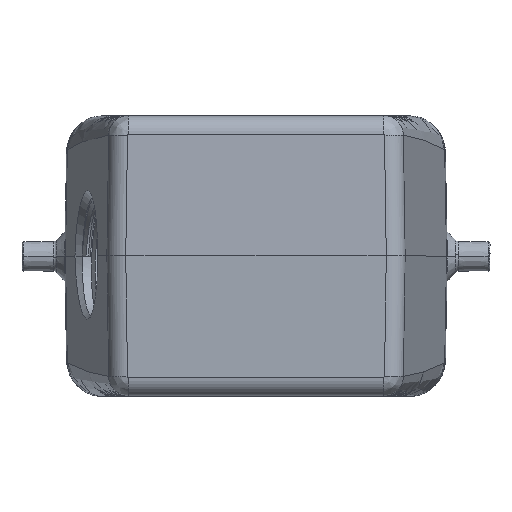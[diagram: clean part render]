
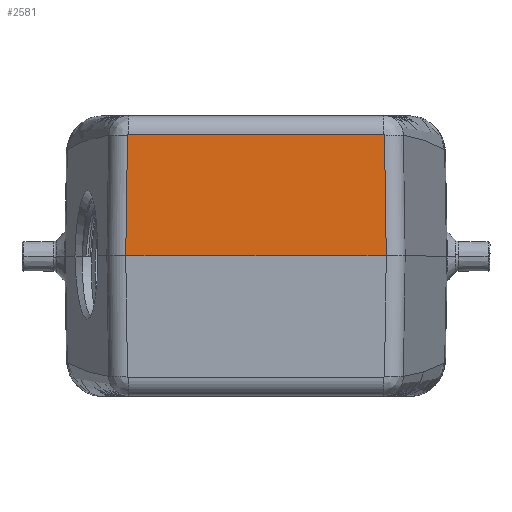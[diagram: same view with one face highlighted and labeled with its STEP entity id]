
A CAD part, top view. The second image highlights one B-rep face of the part: STEP entity #2581.
In plain terms, the highlighted planar face has unit normal (0, 0.018, 1).
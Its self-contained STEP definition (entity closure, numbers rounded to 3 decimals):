
#146 = VERTEX_POINT ( 'NONE', #21108 ) ;
#310 = VERTEX_POINT ( 'NONE', #6989 ) ;
#717 = DIRECTION ( 'NONE',  ( -1., 0., 0. ) ) ;
#863 = CARTESIAN_POINT ( 'NONE',  ( 20.153, 18.923, 59.67 ) ) ;
#1159 = CARTESIAN_POINT ( 'NONE',  ( -20.43, 0., 60. ) ) ;
#1225 = VERTEX_POINT ( 'NONE', #15622 ) ;
#2425 = ORIENTED_EDGE ( 'NONE', *, *, #14607, .F. ) ;
#2579 = B_SPLINE_CURVE_WITH_KNOTS ( 'NONE', 3,
 ( #863, #6522, #6354, #23127 ),
 .UNSPECIFIED., .F., .F.,
 ( 4, 4 ),
 ( 0., 1. ),
 .UNSPECIFIED. ) ;
#2581 = ADVANCED_FACE ( 'NONE', ( #3713 ), #23350, .T. ) ;
#2622 = ORIENTED_EDGE ( 'NONE', *, *, #18631, .F. ) ;
#2899 = CARTESIAN_POINT ( 'NONE',  ( -20.152, 18.957, 59.669 ) ) ;
#2972 = ORIENTED_EDGE ( 'NONE', *, *, #3921, .F. ) ;
#3230 = VECTOR ( 'NONE', #14530, 1000. ) ;
#3413 = DIRECTION ( 'NONE',  ( -1., 0., 0. ) ) ;
#3587 = CARTESIAN_POINT ( 'NONE',  ( -20.089, 19.039, 59.668 ) ) ;
#3688 = VECTOR ( 'NONE', #3413, 1000. ) ;
#3713 = FACE_OUTER_BOUND ( 'NONE', #15534, .T. ) ;
#3921 = EDGE_CURVE ( 'NONE', #146, #1225, #13346, .T. ) ;
#3927 = ORIENTED_EDGE ( 'NONE', *, *, #20471, .F. ) ;
#4065 = EDGE_CURVE ( 'NONE', #10929, #11343, #7103, .T. ) ;
#4703 = CARTESIAN_POINT ( 'NONE',  ( -20.338, 6.308, 59.89 ) ) ;
#4897 = CARTESIAN_POINT ( 'NONE',  ( -82.947, 19.052, 59.667 ) ) ;
#4974 = ORIENTED_EDGE ( 'NONE', *, *, #20812, .F. ) ;
#5892 = VERTEX_POINT ( 'NONE', #1159 ) ;
#5913 = VERTEX_POINT ( 'NONE', #23503 ) ;
#6354 = CARTESIAN_POINT ( 'NONE',  ( 20.338, 6.308, 59.89 ) ) ;
#6522 = CARTESIAN_POINT ( 'NONE',  ( 20.245, 12.615, 59.78 ) ) ;
#6583 = ORIENTED_EDGE ( 'NONE', *, *, #17748, .F. ) ;
#6945 = CARTESIAN_POINT ( 'NONE',  ( -10.25, 0., 60. ) ) ;
#6989 = CARTESIAN_POINT ( 'NONE',  ( 20.43, 0., 60. ) ) ;
#7103 = B_SPLINE_CURVE_WITH_KNOTS ( 'NONE', 3,
 ( #18480, #14826, #9246, #22295, #24166, #10882 ),
 .UNSPECIFIED., .F., .F.,
 ( 4, 2, 4 ),
 ( 0., 0.5, 1. ),
 .UNSPECIFIED. ) ;
#7591 = CARTESIAN_POINT ( 'NONE',  ( -20.153, 18.923, 59.67 ) ) ;
#8200 = LINE ( 'NONE', #21922, #3230 ) ;
#8474 = CARTESIAN_POINT ( 'NONE',  ( -82.947, 0., 60. ) ) ;
#8600 = CARTESIAN_POINT ( 'NONE',  ( -20.245, 12.615, 59.78 ) ) ;
#9246 = CARTESIAN_POINT ( 'NONE',  ( 20.139, 18.99, 59.669 ) ) ;
#9265 = B_SPLINE_CURVE_WITH_KNOTS ( 'NONE', 3,
 ( #14406, #2899, #23814, #3587, #22187, #18378 ),
 .UNSPECIFIED., .F., .F.,
 ( 4, 2, 4 ),
 ( 0., 0.5, 1. ),
 .UNSPECIFIED. ) ;
#9321 = VERTEX_POINT ( 'NONE', #7591 ) ;
#10882 = CARTESIAN_POINT ( 'NONE',  ( 20.021, 19.052, 59.667 ) ) ;
#10929 = VERTEX_POINT ( 'NONE', #15122 ) ;
#11343 = VERTEX_POINT ( 'NONE', #14844 ) ;
#12197 = DIRECTION ( 'NONE',  ( 0., -1., 0.017 ) ) ;
#13346 = LINE ( 'NONE', #6945, #3688 ) ;
#14005 = VECTOR ( 'NONE', #18178, 1000. ) ;
#14178 = CARTESIAN_POINT ( 'NONE',  ( -20.43, 0., 60. ) ) ;
#14330 = EDGE_CURVE ( 'NONE', #11343, #5913, #15462, .T. ) ;
#14374 = ORIENTED_EDGE ( 'NONE', *, *, #4065, .T. ) ;
#14406 = CARTESIAN_POINT ( 'NONE',  ( -20.153, 18.923, 59.67 ) ) ;
#14530 = DIRECTION ( 'NONE',  ( -1., 0., 0. ) ) ;
#14607 = EDGE_CURVE ( 'NONE', #5892, #9321, #21478, .T. ) ;
#14826 = CARTESIAN_POINT ( 'NONE',  ( 20.152, 18.959, 59.669 ) ) ;
#14844 = CARTESIAN_POINT ( 'NONE',  ( 20.021, 19.052, 59.667 ) ) ;
#15122 = CARTESIAN_POINT ( 'NONE',  ( 20.153, 18.923, 59.67 ) ) ;
#15462 = LINE ( 'NONE', #4897, #14005 ) ;
#15534 = EDGE_LOOP ( 'NONE', ( #3927, #2972, #4974, #2622, #14374, #18259, #6583, #2425 ) ) ;
#15622 = CARTESIAN_POINT ( 'NONE',  ( -10.25, 0., 60. ) ) ;
#16051 = CARTESIAN_POINT ( 'NONE',  ( -82.947, 0., 60. ) ) ;
#17748 = EDGE_CURVE ( 'NONE', #9321, #5913, #9265, .T. ) ;
#17892 = LINE ( 'NONE', #8474, #21379 ) ;
#18178 = DIRECTION ( 'NONE',  ( -1., 0., 0. ) ) ;
#18259 = ORIENTED_EDGE ( 'NONE', *, *, #14330, .T. ) ;
#18378 = CARTESIAN_POINT ( 'NONE',  ( -20.021, 19.052, 59.667 ) ) ;
#18412 = AXIS2_PLACEMENT_3D ( 'NONE', #16051, #23510, #12197 ) ;
#18480 = CARTESIAN_POINT ( 'NONE',  ( 20.153, 18.923, 59.67 ) ) ;
#18631 = EDGE_CURVE ( 'NONE', #10929, #310, #2579, .T. ) ;
#20471 = EDGE_CURVE ( 'NONE', #1225, #5892, #8200, .T. ) ;
#20812 = EDGE_CURVE ( 'NONE', #310, #146, #17892, .T. ) ;
#21108 = CARTESIAN_POINT ( 'NONE',  ( 10.25, 0., 60. ) ) ;
#21379 = VECTOR ( 'NONE', #717, 1000. ) ;
#21478 = B_SPLINE_CURVE_WITH_KNOTS ( 'NONE', 3,
 ( #14178, #4703, #8600, #23283 ),
 .UNSPECIFIED., .F., .F.,
 ( 4, 4 ),
 ( 0., 1. ),
 .UNSPECIFIED. ) ;
#21922 = CARTESIAN_POINT ( 'NONE',  ( -82.947, 0., 60. ) ) ;
#22187 = CARTESIAN_POINT ( 'NONE',  ( -20.055, 19.052, 59.667 ) ) ;
#22295 = CARTESIAN_POINT ( 'NONE',  ( 20.088, 19.04, 59.668 ) ) ;
#23127 = CARTESIAN_POINT ( 'NONE',  ( 20.43, 0., 60. ) ) ;
#23283 = CARTESIAN_POINT ( 'NONE',  ( -20.153, 18.923, 59.67 ) ) ;
#23350 = PLANE ( 'NONE',  #18412 ) ;
#23503 = CARTESIAN_POINT ( 'NONE',  ( -20.021, 19.052, 59.667 ) ) ;
#23510 = DIRECTION ( 'NONE',  ( 0., 0.017, 1. ) ) ;
#23814 = CARTESIAN_POINT ( 'NONE',  ( -20.138, 18.991, 59.669 ) ) ;
#24166 = CARTESIAN_POINT ( 'NONE',  ( 20.057, 19.052, 59.667 ) ) ;
